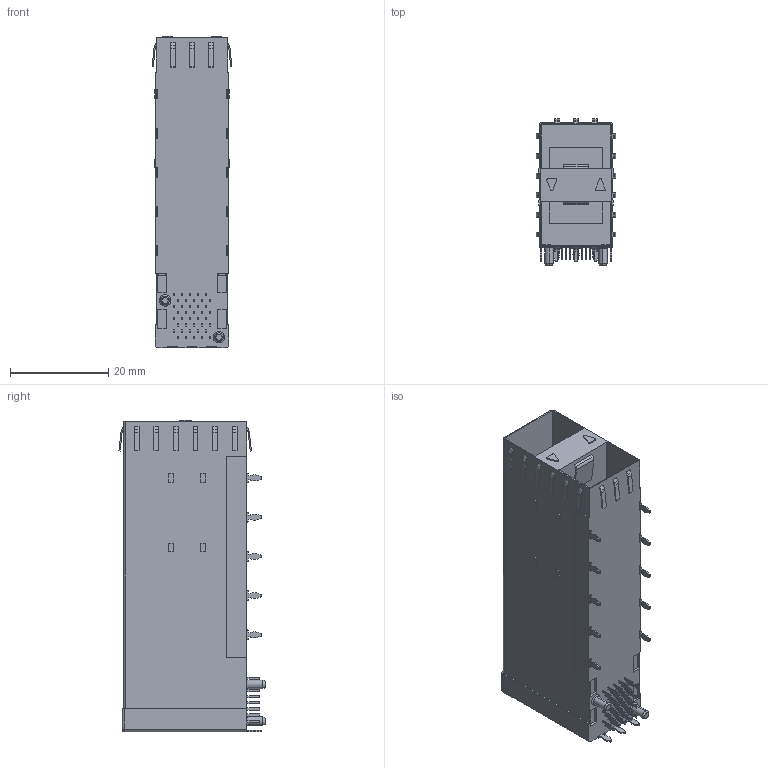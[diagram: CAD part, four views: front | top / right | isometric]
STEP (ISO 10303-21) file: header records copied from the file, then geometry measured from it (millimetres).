
FILE_DESCRIPTION (( 'STEP AP203' ), '1' );
FILE_NAME ('SFP 2X1 拸堎挴 俋絳嫖翐.STEP', '2024-04-28T08:54:47', ( '' ), ( '' ), 'SwSTEP 2.0', 'SolidWorks 2018', '' );
FILE_SCHEMA (( 'CONFIG_CONTROL_DESIGN' ));
Length unit declared in the file: millimetre
Products named in the file (1): SFP 2X1 拸堎挴 俋絳嫖翐
Bounding box: 16.3 x 29.8 x 63.5 mm (x, y, z)
Volume: 12098.5 mm3; surface area: 11014.1 mm2
Topology: 1 solids, 1 shells, 802 faces, 2142 edges, 1422 vertices
Faces by surface type: plane 582, cylinder 210, cone 8, sphere 2
Entity records: 24933 total; most frequent: CARTESIAN_POINT 4365, ORIENTED_EDGE 4280, DIRECTION 4174, EDGE_CURVE 2140, VECTOR 1712, LINE 1712, VERTEX_POINT 1422, AXIS2_PLACEMENT_3D 1231
